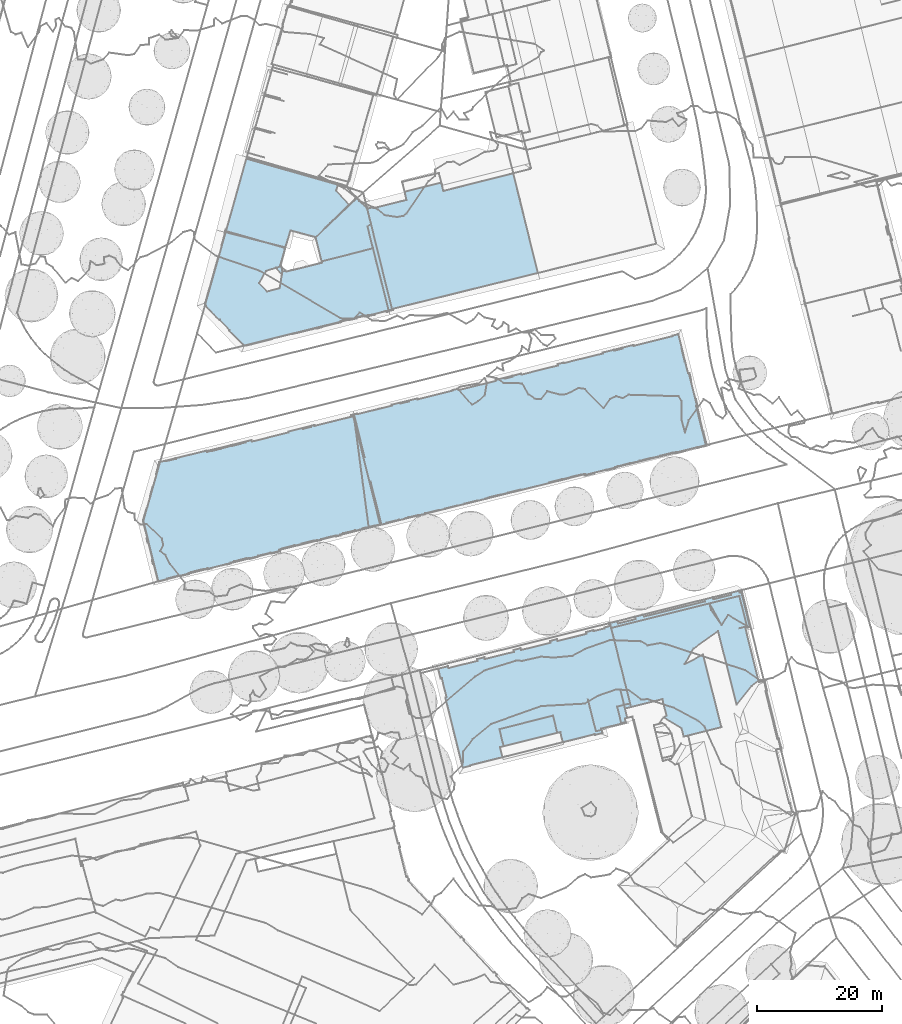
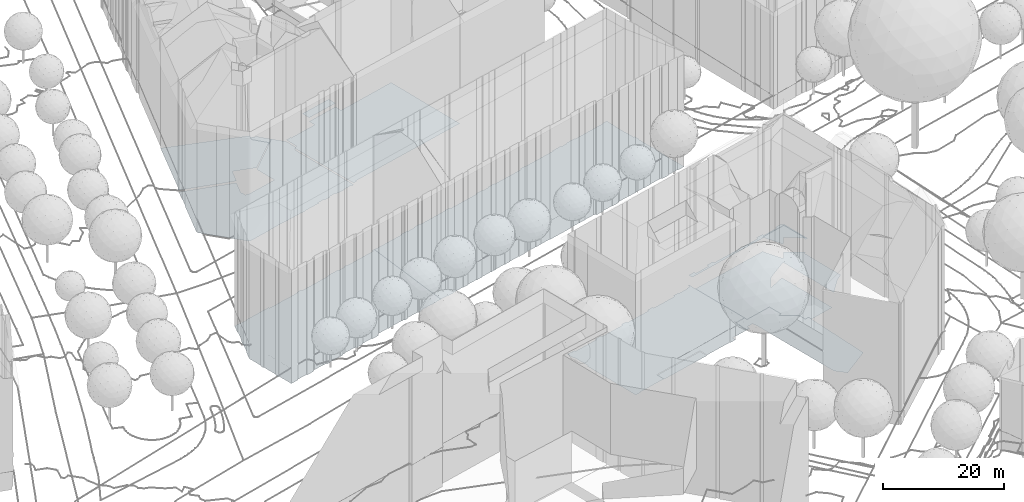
# Not in any storey, part 5 of 477: 6 footings.
"""IFC4 building model written with IfcOpenShell, lengths in metres."""

from ifc_helpers import new_model, si_unit, frame, origin_with_axes, place, context, subcontext, project, spatial, polygons, element, save


model = new_model("IFC4")

# Units and contexts
model_context = context("Model", 3, precision=1e-05, world=origin_with_axes())
body_context = subcontext(model_context, "Body", "Model", "MODEL_VIEW")
ifc_project = project(units=[si_unit("AREAUNIT", "SQUARE_METRE"), si_unit("LENGTHUNIT", "METRE")], contexts=[model_context])

# Sites, building
site_1_placement = place(None, origin_with_axes())
site_1 = spatial("IfcSite", under=ifc_project, at=site_1_placement, Name="Topoexport Site")
site_2_placement = place(site_1_placement, origin_with_axes())
site_2 = spatial("IfcSite", under=site_1, at=site_2_placement, Name="TPX_BUILDINGS")
building_1_placement = place(site_2_placement, frame((124.1537320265, 278.7713160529, 533.7988), z_axis=(0.0, 0.0, 1.0), x_axis=(1.0, 0.0, 0.0)))
building_1 = spatial("IfcBuilding", under=site_2, at=building_1_placement, Name="Building 151", CompositionType="ELEMENT")

# Footing
footing_1_placement = place(None, frame((124.1537320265, 278.7713160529, 533.7988), z_axis=(0.0, 0.0, 1.0), x_axis=(1.0, 0.0, 0.0)))
element("IfcFooting", 1, at=footing_1_placement, inside=building_1, Name="Floor 1", context=body_context, shape_type="Tessellation", body=[
    polygons([(1.9149999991, 28.5234000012, 0.6939), (0.9149999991, 26.6933000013, 0.6939), (1.7730000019, 29.0907999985, 0.6939), (2.381000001, 26.3975000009, 0.6939), (7.0700000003, 26.8691000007, 0.6939), (6.9270000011, 29.7802999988, 0.6939), (2.1279999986, 26.995099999, 0.6939), (-0.2919999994, 28.5762000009, 0.6939), (0.3469999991, 25.9521000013, 0.6939), (2.2820000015, 26.375, 0.6939), (1.0610000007, 26.1083999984, 0.6939), (13.8410000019, 10.6182000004, 0.6939), (8.6559999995, 6.8436999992, 0.6939), (10.324000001, 23.7841999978, 0.6939), (11.068, 23.9716999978, 0.6939), (9.9919999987, 25.1123000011, 0.6939), (6.9510000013, 8.4501999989, 0.6939), (7.5890000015, 27.1444999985, 0.6939), (-1.2520000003, 41.1444999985, 0.0), (11.8619999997, 37.8427999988, 0.0), (-0.1460000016, 36.7382999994, 0.0), (10.4750000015, 35.365199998, 0.0), (0.3049999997, 34.9404000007, 0.0), (0.7890000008, 33.0155999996, 0.0), (16.3480000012, 25.2978000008, 0.0), (13.4299999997, 36.9188999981, 0.0), (6.9270000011, 29.7802999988, 0.0), (14.4530000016, 45.0848999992, 0.0), (1.9149999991, 28.5234000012, 0.0), (7.5890000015, 27.1444999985, 0.0), (9.9919999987, 25.1123000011, 0.0), (10.324000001, 23.7841999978, 0.0), (7.0700000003, 26.8691000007, 0.0), (16.3949999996, 41.6054999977, 0.0), (15.8280000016, 40.6669999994, 0.0), (20.1909999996, 41.1473999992, 0.0), (20.4450000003, 41.4248000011, 0.0), (17.379999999, 43.2344000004, 0.0), (20.4959999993, 41.2225999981, 0.0), (22.2650000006, 32.7509999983, 0.0), (21.1400000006, 31.8506000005, 0.0), (18.7740000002, 28.9307000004, 0.0), (-8.9820000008, 22.9013999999, 0.617), (-19.0229999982, 22.1044999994, 0.617), (-9.3900000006, 24.5234000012, 0.617), (-18.6209999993, 20.5, 0.617), (1.0610000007, 26.1083999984, 0.7269), (1.0769999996, 26.0429999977, 0.7269), (0.3469999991, 25.9521000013, 0.7269), (-10.9860000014, 38.7802999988, 0.727), (-9.824000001, 39.0683000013, 0.727), (0.3049999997, 34.9404000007, 0.727), (0.7890000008, 33.0155999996, 0.7269), (-9.3900000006, 24.5234000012, 0.7269), (-0.1460000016, 36.7382999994, 0.727), (1.7730000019, 29.0907999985, 0.7269), (-0.2919999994, 28.5762000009, 0.7269), (-2.8480000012, 25.066399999, 0.7269), (-2.6730000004, 24.3612999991, 0.7269), (-2.9160000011, 24.3007999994, 0.7269), (-2.7980000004, 24.8671999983, 0.7269), (-3.8979999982, 24.1669999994, 0.7269), (-3.8720000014, 24.0625, 0.7269), (-4.0729999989, 24.123999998, 0.7269), (-1.5139999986, 41.4393999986, 0.727), (-1.4560000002, 41.9580000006, 0.727), (-1.2520000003, 41.1444999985, 0.727), (-2.2930000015, 41.0927999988, 0.727), (-2.3289999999, 41.2373000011, 0.727), (-4.0610000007, 40.6523000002, 0.727), (-1.6319999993, 41.9140999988, 0.727), (-4.8819999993, 40.6035000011, 0.727), (-4.0969999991, 40.7987999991, 0.727), (-5.2210000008, 40.4257999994, 0.727), (-5.1710000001, 40.2225999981, 0.727), (-5.9979999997, 40.0175999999, 0.727), (-5.2430000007, 40.5137000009, 0.727), (-11.0590000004, 39.0742000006, 0.727), (-9.8969999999, 39.3612999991, 0.727), (-8.9820000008, 22.9013999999, 0.7269), (-7.6090000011, 23.2432000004, 0.7269), (-27.5639999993, 30.0927999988, 0.727), (-16.8049999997, 37.3359000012, 0.727), (-26.1889999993, 23.7313999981, 0.727), (-19.0229999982, 22.1044999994, 0.727), (-23.8280000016, 19.2030999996, 0.727), (-18.6209999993, 20.5, 0.727), (-28.324000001, 33.1493999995, 0.727), (-22.6259999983, 35.8925999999, 0.727), (-23.8049999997, 19.1112999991, 0.727), (-24.9690000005, 18.8213, 0.727), (-27.7569999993, 30.0438999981, 0.727), (-28.5179999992, 33.1015999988, 0.727), (-28.9010000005, 34.6444999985, 0.727), (-16.8770000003, 37.6268999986, 0.727), (-15.6409999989, 37.625, 0.727), (-15.7129999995, 37.9169999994, 0.727), (-22.6979999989, 36.1816000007, 0.727), (-21.5329999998, 36.4686999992, 0.727), (-21.4620000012, 36.1816000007, 0.727), (-27.3579999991, 35.0273000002, 0.727), (-27.2859999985, 34.7362999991, 0.727), (19.5450000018, 46.8827999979, 2.6808), (20.9189999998, 41.3271000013, 2.6808), (19.2250000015, 46.2841999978, 2.6808), (20.4959999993, 41.2225999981, 2.6808), (20.4459999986, 41.4248000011, 2.6808), (19.251000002, 46.7763999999, 2.6808), (17.9189999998, 46.4452999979, 2.6808), (14.4530000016, 45.0850000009, 2.6808), (15.6339999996, 45.8759999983, 2.6808), (17.8390000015, 46.7655999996, 2.6808), (19.1710000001, 47.0966999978, 2.6808), (14.9770000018, 46.052699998, 2.6808), (15.057, 45.7324000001, 2.6808), (13.7170000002, 45.3984000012, 2.6808), (8.0800000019, 43.9941000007, 2.6808), (-1.2520000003, 41.1444999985, 2.6808), (-0.175999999, 41.8641999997, 2.6808), (2.6660000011, 42.5731999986, 2.6808), (3.9910000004, 42.9756000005, 2.6808), (2.569000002, 42.9609000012, 2.6808), (-1.4560000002, 41.9580000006, 2.6808), (3.7679999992, 43.2606999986, 2.6808), (3.9149999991, 43.2969000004, 2.6808), (-0.2729999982, 42.2518999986, 2.6808), (13.6380000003, 45.7177999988, 2.6808), (19.2250000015, 46.2841999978, 2.8947), (17.379999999, 43.2344000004, 2.8947), (14.4530000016, 45.0850000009, 2.8947), (20.4450000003, 41.4248000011, 2.8947), (16.3949999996, 41.6054999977, 2.8947)], [[[1, 2, 3]], [[4, 1, 5]], [[6, 5, 1]], [[1, 4, 7]], [[2, 8, 3]], [[1, 7, 2]], [[2, 9, 8]], [[4, 10, 7]], [[2, 11, 9]], [[12, 13, 14]], [[14, 15, 12]], [[5, 16, 14]], [[17, 4, 5]], [[6, 18, 5]], [[17, 5, 14]], [[17, 14, 13]], [[19, 20, 21]], [[21, 22, 23]], [[22, 24, 23]], [[21, 20, 22]], [[25, 22, 26]], [[22, 27, 24]], [[28, 20, 19]], [[29, 24, 27]], [[30, 27, 31]], [[32, 31, 25]], [[33, 30, 31]], [[31, 27, 22]], [[34, 35, 28]], [[34, 36, 35]], [[37, 36, 38]], [[37, 39, 36]], [[36, 34, 38]], [[36, 40, 35]], [[22, 25, 31]], [[35, 41, 42]], [[35, 40, 41]], [[20, 28, 35]], [[43, 44, 45]], [[44, 43, 46]], [[47, 48, 49]], [[50, 51, 52]], [[52, 53, 54]], [[52, 51, 55]], [[56, 57, 53]], [[58, 57, 49]], [[59, 60, 61]], [[62, 60, 63]], [[60, 62, 61]], [[49, 48, 58]], [[62, 58, 61]], [[64, 58, 62]], [[58, 54, 57]], [[54, 53, 57]], [[65, 66, 67]], [[67, 68, 65]], [[68, 69, 65]], [[67, 55, 68]], [[68, 55, 70]], [[65, 71, 66]], [[72, 73, 70]], [[74, 72, 75]], [[55, 75, 70]], [[75, 55, 76]], [[72, 74, 77]], [[78, 79, 50]], [[79, 51, 50]], [[72, 70, 75]], [[51, 76, 55]], [[58, 64, 54]], [[80, 54, 81]], [[82, 83, 84]], [[85, 84, 54]], [[84, 85, 86]], [[86, 85, 87]], [[82, 88, 89]], [[90, 91, 86]], [[52, 54, 50]], [[92, 82, 84]], [[54, 84, 83]], [[86, 91, 84]], [[93, 94, 88]], [[83, 95, 96]], [[50, 54, 96]], [[96, 54, 83]], [[96, 95, 97]], [[89, 98, 99]], [[83, 82, 100]], [[100, 82, 89]], [[94, 101, 102]], [[88, 94, 102]], [[99, 100, 89]], [[102, 89, 88]], [[64, 81, 54]], [[103, 104, 105]], [[104, 106, 107]], [[105, 108, 103]], [[105, 109, 108]], [[105, 104, 107]], [[105, 110, 111]], [[109, 112, 113]], [[105, 111, 109]], [[114, 115, 116]], [[115, 111, 110]], [[109, 113, 108]], [[110, 116, 115]], [[110, 117, 116]], [[118, 119, 120]], [[121, 117, 118]], [[122, 121, 120]], [[123, 119, 118]], [[117, 110, 118]], [[118, 120, 121]], [[121, 124, 125]], [[124, 121, 122]], [[123, 126, 119]], [[127, 114, 116]], [[128, 129, 130]], [[129, 128, 131]], [[132, 130, 129]]]),
])

# Building
building_2_placement = place(site_2_placement, frame((81.7547320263, 354.0350160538, 535.8227), z_axis=(0.0, 0.0, 1.0), x_axis=(1.0, 0.0, 0.0)))
building_2 = spatial("IfcBuilding", under=site_2, at=building_2_placement, Name="Building 164", CompositionType="ELEMENT")

# Footing
footing_2_placement = place(None, frame((81.7547320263, 354.0350160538, 535.8227), z_axis=(0.0, 0.0, 1.0), x_axis=(1.0, 0.0, 0.0)))
element("IfcFooting", 2, at=footing_2_placement, inside=building_2, Name="Floor 0", context=body_context, shape_type="Tessellation", body=[
    polygons([(4.2390000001, -17.6513999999, 0.0), (3.9180000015, -17.7314999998, 0.0), (3.8969999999, -17.6446000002, 0.0), (4.4299999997, -17.6045000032, 0.0), (3.4160000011, -17.7237000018, 0.0), (5.2609999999, -17.3057000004, 0.0), (5.2769999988, -17.3946000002, 0.0), (1.4919999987, -11.2305000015, 0.0), (7.2520000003, -16.8125, 0.0), (3.4310000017, -17.7675999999, 0.0), (7.2829999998, -16.8965000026, 0.0), (8.2120000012, -16.6661000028, 0.0), (8.3420000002, -16.5411000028, 0.0), (8.3630000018, -16.6289000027, 0.0), (8.7919999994, -16.4307000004, 0.0), (10.3099999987, -16.0567000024, 0.0), (11.4090000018, -15.7901000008, 0.0), (11.4270000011, -15.8692000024, 0.0), (16.5639999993, -14.5245000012, 0.0), (14.5729999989, -15.0157000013, 0.0), (10.3359999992, -16.1407000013, 0.0), (14.5879999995, -15.0860000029, 0.0), (13.561999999, -15.2696000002, 0.0), (17.6959999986, -14.3155000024, 0.0), (16.5800000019, -14.5918000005, 0.0), (17.6810000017, -14.2383000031, 0.0), (13.5789999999, -15.3360000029, 0.0), (19.6710000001, -13.7471000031, 0.0), (21.0590000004, -13.4825000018, 0.0), (19.6909999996, -13.8213, 0.0), (21.5130000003, -13.2530000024, 0.0), (21.0470000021, -13.4239000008, 0.0), (21.5269999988, -13.3057000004, 0.0), (23.5159999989, -12.7637000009, 0.0), (24.6559999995, -12.4785000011, 0.0), (24.6680000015, -12.5263999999, 0.0), (23.5280000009, -12.8057000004, 0.0), (31.2730000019, -10.9502000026, 0.0), (26.694000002, -12.0840000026, 0.0), (26.6669999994, -11.9932000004, 0.0), (31.2470000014, -10.8467000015, 0.0), (1.4459999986, -10.8868000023, 0.0), (33.2459999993, -10.3409000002, 0.0), (34.4510000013, -10.0811000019, 0.0), (33.2580000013, -10.3731000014, 0.0), (34.4450000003, -10.0459000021, 0.0), (36.3969999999, -9.567400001, 0.0), (36.8330000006, -9.5020000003, 0.0), (36.4070000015, -9.6084000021, 0.0), (38.3379999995, -9.327200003, 0.0), (38.3610000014, -9.4200000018, 0.0), (36.9050000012, -9.7803000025, 0.0), (40.3770000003, -8.8203999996, 0.0), (42.1449999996, -8.2802000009, 0.0), (41.8090000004, -8.563500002, 0.0), (40.4010000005, -8.9151000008, 0.0), (41.7730000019, -8.4131000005, 0.0), (42.1550000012, -8.3194000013, 0.0), (44.1610000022, -7.8145000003, 0.0), (44.1460000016, -7.7832000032, 0.0), (45.6469999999, -7.4502000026, 0.0), (55.3029999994, -0.6494000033, 0.0), (45.6330000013, -7.4034000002, 0.0), (47.5450000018, -6.9805000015, 0.0), (47.5320000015, -6.942400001, 0.0), (49.0370000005, -6.6152999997, 0.0), (49.0250000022, -6.5703000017, 0.0), (51.0709999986, -6.1055000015, 0.0), (51.0549999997, -6.0576000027, 0.0), (51.4629999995, -6.004900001, 0.0), (52.9180000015, -5.8379000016, 0.0), (51.5159999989, -6.1748000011, 0.0), (52.8949999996, -5.7276000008, 0.0), (55.8110000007, -2.7168000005, 0.0), (2.3880000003, -17.9776000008, 0.0), (0.9459999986, -7.1202000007, 0.0), (0.0, 0.0, 0.0), (0.5269999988, 0.047799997, 0.0), (4.1270000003, 0.9266999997, 0.0), (0.5080000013, 0.1268999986, 0.0), (0.0329999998, 0.0088, 0.0), (6.0910000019, 1.4051999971, 0.0), (7.512000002, 1.7469999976, 0.0), (6.0549999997, 1.5516999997, 0.0), (7.4790000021, 1.9012999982, 0.0), (8.8509999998, 2.0829999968, 0.0), (10.2300000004, 2.422799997, 0.0), (10.194000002, 2.5682999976, 0.0), (8.8249999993, 2.2313999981, 0.0), (16.7820000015, 3.8944999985, 0.0), (15.7829999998, 3.8173999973, 0.0), (54.5969999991, 2.4491999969, 0.0), (16.7259999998, 4.1278999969, 0.0), (15.7639999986, 3.8954999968, 0.0), (22.6209999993, 5.4979999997, 0.0), (24.0720000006, 5.7088999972, 0.0), (22.6570000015, 5.3514999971, 0.0), (24.0399999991, 5.8486000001, 0.0), (53.8220000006, 5.5625, 0.0), (26.7860000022, 6.3729999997, 0.0), (25.4079999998, 6.0341999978, 0.0), (25.379999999, 6.1805999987, 0.0), (26.75, 6.5185000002, 0.0), (53.4220000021, 6.5898000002, 0.0), (32.5980000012, 8.066399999, 0.0), (33.5780000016, 8.2137999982, 0.0), (32.6550000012, 7.8339999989, 0.0), (33.557, 8.3006999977, 0.0), (39.8090000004, 9.748999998, 0.0), (52.8770000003, 8.4842999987, 0.0), (56.2300000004, -4.2334000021, 0.0), (54.9420000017, -5.2276000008, 0.0), (54.9670000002, -5.327200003, 0.0), (56.4129999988, -4.9825000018, 0.0), (53.9100000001, 5.5887999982, 0.0), (54.8599999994, 1.369099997, 0.0), (53.6570000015, 6.6454999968, 0.0), (54.949000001, 1.3905999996, 0.0), (54.6849999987, 2.4755999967, 0.0), (55.8570000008, -2.7090000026, 0.0), (56.307, -4.5469000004, 0.0), (55.3489999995, -0.6338, 0.0), (39.7730000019, 9.8944999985, 0.0), (41.6110000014, 10.177699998, 0.0), (41.5729999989, 10.3398000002, 0.0), (52.3440000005, 10.6747999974, 0.0), (42.9160000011, 10.672799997, 0.0), (44.7300000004, 10.9667999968, 0.0), (42.9459999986, 10.5292999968, 0.0), (44.694000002, 11.1122999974, 0.0), (52.9479999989, 8.5067999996, 0.0), (50.9210000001, 12.5975999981, 0.0), (51.8770000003, 12.8299999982, 0.0), (50.9420000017, 12.5097000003, 0.0), (52.4050000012, 10.6991999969, 0.0)], [[[1, 2, 3]], [[4, 1, 3]], [[5, 6, 3]], [[6, 7, 4]], [[4, 3, 6]], [[8, 9, 6]], [[10, 5, 3]], [[8, 6, 5]], [[11, 9, 12]], [[13, 12, 9]], [[14, 12, 13]], [[13, 8, 15]], [[9, 8, 13]], [[8, 16, 15]], [[17, 18, 16]], [[8, 19, 20]], [[18, 21, 16]], [[20, 22, 23]], [[20, 23, 8]], [[19, 24, 25]], [[19, 8, 26]], [[22, 27, 23]], [[17, 8, 23]], [[24, 19, 26]], [[28, 29, 30]], [[8, 31, 28]], [[29, 28, 32]], [[33, 32, 31]], [[34, 8, 35]], [[28, 31, 32]], [[28, 26, 8]], [[17, 16, 8]], [[34, 31, 8]], [[36, 37, 34]], [[34, 35, 36]], [[38, 39, 40]], [[40, 41, 38]], [[41, 40, 8]], [[42, 43, 41]], [[8, 40, 35]], [[44, 45, 43]], [[43, 46, 44]], [[47, 48, 49]], [[48, 50, 51]], [[52, 48, 51]], [[48, 53, 50]], [[54, 48, 47]], [[42, 47, 46]], [[42, 46, 43]], [[53, 55, 56]], [[55, 53, 57]], [[54, 57, 53]], [[58, 57, 54]], [[59, 60, 61]], [[60, 54, 62]], [[62, 63, 60]], [[48, 54, 53]], [[61, 60, 63]], [[64, 65, 66]], [[67, 66, 65]], [[68, 69, 70]], [[70, 71, 72]], [[70, 73, 71]], [[65, 74, 67]], [[65, 63, 74]], [[62, 54, 47]], [[75, 8, 5]], [[47, 42, 76]], [[62, 47, 76]], [[76, 77, 78]], [[79, 76, 78]], [[80, 78, 81]], [[79, 82, 76]], [[77, 81, 78]], [[83, 82, 84]], [[84, 85, 83]], [[76, 86, 87]], [[76, 83, 86]], [[88, 87, 89]], [[90, 87, 91]], [[76, 87, 90]], [[87, 86, 89]], [[76, 82, 83]], [[90, 92, 76]], [[93, 90, 94]], [[91, 94, 90]], [[95, 96, 97]], [[96, 95, 98]], [[97, 96, 99]], [[99, 90, 97]], [[100, 101, 102]], [[102, 103, 100]], [[101, 100, 104]], [[101, 99, 96]], [[105, 106, 107]], [[106, 105, 108]], [[109, 107, 106]], [[104, 100, 107]], [[110, 107, 109]], [[73, 70, 69]], [[73, 111, 112]], [[113, 112, 114]], [[73, 69, 111]], [[104, 115, 99]], [[92, 90, 99]], [[76, 92, 116]], [[117, 115, 104]], [[101, 104, 99]], [[62, 76, 116]], [[118, 92, 119]], [[74, 120, 111]], [[121, 112, 111]], [[112, 121, 114]], [[74, 111, 69]], [[116, 92, 118]], [[62, 116, 122]], [[62, 74, 63]], [[67, 74, 69]], [[123, 124, 109]], [[124, 123, 125]], [[124, 126, 109]], [[127, 128, 129]], [[128, 127, 130]], [[129, 128, 126]], [[129, 126, 124]], [[109, 126, 110]], [[131, 104, 110]], [[132, 133, 134]], [[133, 135, 134]], [[126, 128, 135]], [[128, 134, 135]], [[107, 110, 104]], [[41, 8, 42]]]),
])

# Building
building_3_placement = place(site_2_placement, frame((48.0647320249, 337.0857160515, 535.8227), z_axis=(0.0, 0.0, 1.0), x_axis=(1.0, 0.0, 0.0)))
building_3 = spatial("IfcBuilding", under=site_2, at=building_3_placement, Name="Building 165", CompositionType="ELEMENT")

# Footing
footing_3_placement = place(None, frame((48.0647320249, 337.0857160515, 535.8227), z_axis=(0.0, 0.0, 1.0), x_axis=(1.0, 0.0, 0.0)))
element("IfcFooting", 3, at=footing_3_placement, inside=building_3, Name="Floor 0", context=body_context, shape_type="Tessellation", body=[
    polygons([(33.6900000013, 16.9493000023, 0.0), (33.3000000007, 16.5947999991, 0.0), (33.5500000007, 16.9141000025, 0.0), (33.2390000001, 16.8379000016, 0.0), (27.4270000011, 15.1280000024, 0.0), (30.2790000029, 15.8399000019, 0.0), (34.6359999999, 9.8291000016, 0.0), (26.8230000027, 15.1308999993, 0.0), (27.3900000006, 15.2734999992, 0.0), (26.8520000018, 14.9678000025, 0.0), (23.2900000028, 14.0888999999, 0.0), (23.2530000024, 14.2344000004, 0.0), (25.6000000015, 14.6534000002, 0.0), (25.5670000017, 14.8164000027, 0.0), (17.4160000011, 12.6220999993, 0.0), (35.1359999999, 6.0625, 0.0), (24.2039999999, -3.9422999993, 0.0), (35.2910000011, -1.2215999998, 0.0), (35.182, 5.7188000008, 0.0), (36.0780000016, -1.0282999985, 0.0), (25.3740000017, -3.6669999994, 0.0), (35.1000000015, -1.2685000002, 0.0), (14.1790000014, 11.9043000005, 0.0), (22.2210000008, -4.4442999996, 0.0), (12.4210000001, 11.4620000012, 0.0), (16.3880000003, 12.6182000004, 0.0), (17.3590000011, 12.8544999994, 0.0), (16.4060000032, 12.4776000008, 0.0), (15.6550000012, 12.2657000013, 0.0), (15.6510000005, 12.2969000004, 0.0), (33.9360000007, -1.5487999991, 0.0), (12.4170000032, 11.5, 0.0), (14.1730000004, 11.947300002, 0.0), (10.9700000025, 11.0918000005, 0.0), (10.2130000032, 10.9600000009, 0.0), (10.9600000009, 11.1495000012, 0.0), (10.1610000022, 11.1601999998, 0.0), (1.5920000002, 5.3194000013, 0.0), (5.2630000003, 9.8594000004, 0.0), (5.2420000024, 9.9629000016, 0.0), (2.1770000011, 7.3858000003, 0.0), (3.7320000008, 9.4922000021, 0.0), (2.6090000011, 9.3243000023, 0.0), (3.7140000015, 9.5909000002, 0.0), (2.4520000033, 8.7618000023, 0.0), (1.194000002, 3.9180000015, 0.0), (18.3900000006, -5.6268999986, 0.0), (2.0800000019, 7.4229000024, 0.0), (1.1180000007, 3.9453999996, 0.0), (16.5530000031, -6.0126999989, 0.0), (0.6160000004, 1.8780000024, 0.0), (1.5150000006, 5.3438000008, 0.0), (0.1660000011, 0.5733000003, 0.0), (0.5470000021, 1.8965000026, 0.0), (0.7039999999, -2.807599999, 0.0), (0.0, 0.0, 0.0), (0.8590000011, -3.4648000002, 0.0), (0.5670000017, -2.8436999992, 0.0), (14.5450000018, -6.5126999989, 0.0), (0.7400000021, -3.4881999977, 0.0), (35.1140000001, -1.3348999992, 0.0), (33.950000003, -1.6162, 0.0), (31.9580000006, -2.0321999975, 0.0), (30.8550000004, -2.3662, 0.0), (31.5450000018, -2.3691000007, 0.0), (30.8890000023, -2.5340999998, 0.0), (31.5140000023, -2.2284999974, 0.0), (31.9720000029, -2.1092999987, 0.0), (27.3430000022, -3.1717999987, 0.0), (28.4470000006, -2.9608999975, 0.0), (27.8330000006, -3.1180999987, 0.0), (27.8660000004, -3.2752999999, 0.0), (28.4820000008, -3.1209999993, 0.0), (27.3560000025, -3.2284999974, 0.0), (25.3859999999, -3.7362999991, 0.0), (24.2240000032, -4.0262999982, 0.0), (21.8280000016, -4.6004999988, 0.0), (22.2300000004, -4.4941000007, 0.0), (20.4300000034, -5.1259000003, 0.0), (21.9140000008, -4.9384000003, 0.0), (20.4680000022, -5.2899999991, 0.0), (18.4250000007, -5.7861000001, 0.0), (16.9790000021, -5.9715999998, 0.0), (17.018000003, -6.1464000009, 0.0), (16.5670000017, -6.0839000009, 0.0), (13.9790000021, -6.7333999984, 0.0), (14.0080000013, -6.8768999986, 0.0), (13.4180000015, -7.0262999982, 0.0), (13.4020000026, -6.9549999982, 0.0), (14.5620000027, -6.5918000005, 0.0), (10.3260000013, -7.6307999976, 0.0), (1.7150000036, -6.8983999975, 0.0), (1.4330000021, -6.2909999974, 0.0), (1.5610000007, -6.2547999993, 0.0), (7.6620000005, -8.2324000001, 0.0), (1.5920000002, -6.9247999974, 0.0), (10.9650000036, -7.566399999, 0.0), (9.7030000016, -7.7342999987, 0.0), (10.9740000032, -7.6483999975, 0.0), (9.7170000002, -7.7949000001, 0.0), (10.3650000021, -7.807599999, 0.0), (7.2960000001, -8.3856999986, 0.0), (7.6760000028, -8.2928999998, 0.0), (5.8650000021, -8.7577999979, 0.0), (3.8480000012, -9.2597000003, 0.0), (7.3340000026, -8.5506999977, 0.0), (2.4410000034, -9.753899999, 0.0), (3.876000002, -9.3964000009, 0.0), (5.8980000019, -8.9081999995, 0.0)], [[[1, 2, 3]], [[3, 2, 4]], [[5, 6, 7]], [[5, 8, 9]], [[7, 10, 5]], [[7, 2, 1]], [[8, 5, 10]], [[11, 12, 13]], [[13, 7, 11]], [[12, 14, 13]], [[7, 13, 10]], [[2, 7, 6]], [[15, 16, 17]], [[16, 15, 11]], [[18, 19, 20]], [[19, 21, 16]], [[22, 19, 18]], [[23, 24, 25]], [[15, 26, 27]], [[15, 28, 26]], [[28, 29, 30]], [[29, 15, 24]], [[15, 29, 28]], [[24, 23, 29]], [[31, 19, 22]], [[7, 16, 11]], [[32, 33, 23]], [[25, 32, 23]], [[34, 35, 36]], [[37, 35, 38]], [[34, 38, 35]], [[39, 40, 37]], [[37, 41, 39]], [[42, 43, 44]], [[43, 42, 45]], [[42, 41, 45]], [[39, 41, 42]], [[46, 34, 47]], [[48, 45, 41]], [[46, 49, 38]], [[46, 50, 51]], [[34, 46, 38]], [[49, 52, 38]], [[38, 41, 37]], [[51, 53, 54]], [[53, 55, 56]], [[57, 58, 55]], [[53, 59, 55]], [[58, 57, 60]], [[47, 34, 25]], [[59, 53, 51]], [[59, 57, 55]], [[22, 61, 31]], [[31, 61, 62]], [[63, 64, 19]], [[65, 66, 64]], [[64, 67, 65]], [[67, 63, 68]], [[67, 64, 63]], [[69, 19, 70]], [[70, 71, 69]], [[64, 70, 19]], [[72, 71, 73]], [[74, 69, 71]], [[71, 70, 73]], [[21, 19, 69]], [[75, 17, 21]], [[75, 76, 17]], [[16, 21, 17]], [[77, 24, 78]], [[77, 25, 24]], [[79, 77, 80]], [[80, 81, 79]], [[79, 47, 77]], [[82, 83, 47]], [[83, 82, 84]], [[46, 47, 50]], [[77, 47, 25]], [[47, 83, 50]], [[17, 24, 15]], [[50, 83, 85]], [[57, 59, 86]], [[87, 88, 89]], [[89, 86, 87]], [[86, 59, 90]], [[57, 86, 91]], [[92, 93, 94]], [[92, 94, 95]], [[92, 96, 93]], [[97, 91, 89]], [[94, 57, 98]], [[99, 91, 97]], [[98, 57, 91]], [[89, 91, 86]], [[50, 59, 51]], [[91, 100, 98]], [[91, 99, 101]], [[102, 95, 103]], [[95, 102, 92]], [[104, 105, 92]], [[106, 104, 102]], [[105, 107, 92]], [[102, 104, 92]], [[105, 108, 107]], [[109, 104, 106]], [[94, 98, 95]], [[19, 31, 63]]]),
])

# Building
building_4_placement = place(site_2_placement, frame((57.9967320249, 371.6443160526, 536.9447), z_axis=(0.0, 0.0, 1.0), x_axis=(1.0, 0.0, 0.0)))
building_4 = spatial("IfcBuilding", under=site_2, at=building_4_placement, Name="Building 212", CompositionType="ELEMENT")

# Footing
footing_4_placement = place(None, frame((57.9967320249, 371.6443160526, 536.9447), z_axis=(0.0, 0.0, 1.0), x_axis=(1.0, 0.0, 0.0)))
element("IfcFooting", 4, at=footing_4_placement, inside=building_4, Name="Floor 0", context=body_context, shape_type="Tessellation", body=[
    polygons([(10.3950000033, 9.6816999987, 0.0), (0.1380000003, -0.2675000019, 0.0), (0.0100000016, 0.1689999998, 0.0), (2.0930000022, 7.5390999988, 0.0), (2.2030000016, 7.6963, 0.0), (2.1290000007, 7.6152999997, 0.0), (12.007000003, 6.1856000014, -0.0001), (2.2930000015, -2.5439000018, -0.0001), (2.3590000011, -2.4803999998, -0.0001), (0.0, 0.0, 0.0), (0.0540000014, -0.1523000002, 0.0), (2.9260000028, 10.4776000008, 0.0), (2.6590000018, 9.3027999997, 0.0), (2.643000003, 9.4814999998, 0.0), (3.1610000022, 11.5390999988, 0.0), (3.1570000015, 11.2930000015, 0.0), (3.1020000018, 11.3095999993, 0.0), (12.2110000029, 5.9814999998, -0.0001), (12.3510000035, 5.2305000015, -0.0001), (12.9810000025, 5.2120000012, -0.0001), (12.8380000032, 5.3555000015, -0.0001), (3.9330000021, -4.1240000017, -0.0001), (2.637000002, 9.3847999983, 0.0), (3.8720000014, -4.191399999, -0.0001), (6.0970000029, -6.4541000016, -0.0001), (6.5460000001, -6.6103000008, -0.0001), (6.2920000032, -6.5879000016, -0.0001), (6.188000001, -6.5293000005, -0.0001), (6.4150000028, -6.6141999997, -0.0001), (6.449000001, -6.6229999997, -0.0001), (10.8060000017, -5.4765000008, -0.0001), (10.6600000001, -5.5742000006, -0.0001), (10.7360000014, -5.5419999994, -0.0001), (13.6530000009, -4.7685000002, -0.0001), (17.5560000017, 6.3526000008, -0.0001), (13.8270000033, -4.7928999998, -0.0001), (13.7200000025, -4.7928999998, -0.0001), (17.7670000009, -3.8291000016, -0.0001), (18.689000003, 6.6347999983, -0.0001), (13.8440000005, 5.4277999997, -0.0001), (17.7860000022, -3.9061999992, -0.0001), (18.700000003, -3.6004999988, -0.0001), (18.7190000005, -3.6787, -0.0001), (27.2670000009, 7.2217000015, -0.0001), (21.6490000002, -2.6766999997, -0.0001), (21.6910000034, -2.8680999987, -0.0001), (27.4590000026, 6.4677999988, -0.0001), (12.7980000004, 8.9912, 0.0), (12.819000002, 9.0615999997, 0.0), (16.1700000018, 6.0069000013, -0.0001), (18.6770000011, 6.6827000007, -0.0001), (25.9670000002, 12.4228999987, -0.0002), (19.9760000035, 12.9941999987, -0.0001), (17.6710000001, 10.6992999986, -0.0001), (17.6480000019, 10.7050999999, -0.0001), (17.9580000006, 9.5546999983, -0.0001), (24.1640000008, 17.1083999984, 0.0), (24.2860000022, 16.9844000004, 0.0), (23.007000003, 15.9726999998, 0.0), (24.9530000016, 16.2842000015, -0.0001), (26.1160000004, 14.4688000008, -0.0001), (26.5090000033, 12.8779999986, -0.0001), (25.9170000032, 15.2745000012, -0.0001), (25.6150000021, 15.5909000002, -0.0001), (26.8340000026, 8.9472999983, -0.0001), (22.9730000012, -2.5555999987, -0.0001), (24.1520000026, -2.0791000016, -0.0001), (24.1920000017, -2.2578000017, -0.0001), (22.9230000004, -2.371100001, -0.0001), (25.4200000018, -1.7694999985, -0.0001), (26.0200000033, -1.8095000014, -0.0001), (25.4640000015, -1.9453000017, -0.0001), (26.0430000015, -1.9013000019, -0.0001), (26.876000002, -1.6953000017, -0.0001), (27.1510000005, -1.5243999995, -0.0001), (27.1150000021, -1.6435000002, -0.0001), (27.068, -1.6904000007, -0.0001), (26.8880000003, -1.7430999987, -0.0001), (28.006000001, -1.3134000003, -0.0001), (28.8460000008, -1.1064000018, -0.0001), (29.193, -1.1240000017, -0.0001), (29.0520000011, -1.2138000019, -0.0001), (28.9420000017, -1.2010999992, -0.0001), (29.2050000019, -1.1737999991, -0.0001), (29.3720000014, -1.0800000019, -0.0001)], [[[1, 2, 3]], [[4, 1, 3]], [[5, 4, 6]], [[7, 2, 1]], [[8, 2, 9]], [[10, 3, 11]], [[2, 11, 3]], [[2, 7, 9]], [[4, 5, 1]], [[12, 13, 14]], [[5, 13, 1]], [[15, 16, 17]], [[12, 16, 1]], [[1, 13, 12]], [[7, 18, 19]], [[9, 7, 19]], [[20, 19, 21]], [[19, 22, 9]], [[15, 1, 16]], [[14, 13, 23]], [[22, 19, 20]], [[24, 22, 25]], [[26, 27, 28]], [[26, 28, 25]], [[26, 25, 20]], [[29, 26, 30]], [[27, 26, 29]], [[31, 32, 26]], [[22, 20, 25]], [[32, 31, 33]], [[34, 31, 35]], [[36, 37, 34]], [[38, 36, 39]], [[39, 36, 34]], [[26, 40, 31]], [[41, 42, 43]], [[41, 38, 42]], [[42, 38, 44]], [[42, 45, 46]], [[47, 45, 42]], [[26, 20, 40]], [[48, 7, 1]], [[48, 1, 49]], [[39, 34, 35]], [[31, 50, 35]], [[39, 51, 52]], [[44, 38, 39]], [[53, 54, 55]], [[54, 53, 56]], [[57, 58, 59]], [[59, 60, 53]], [[60, 59, 58]], [[61, 52, 56]], [[53, 61, 56]], [[61, 62, 52]], [[52, 51, 56]], [[63, 61, 64]], [[53, 64, 61]], [[60, 64, 53]], [[52, 65, 39]], [[66, 67, 68]], [[66, 69, 67]], [[70, 67, 47]], [[70, 71, 72]], [[69, 47, 67]], [[73, 71, 74]], [[75, 76, 77]], [[74, 71, 75]], [[75, 77, 78]], [[78, 74, 75]], [[71, 70, 75]], [[47, 79, 75]], [[70, 47, 75]], [[47, 80, 79]], [[45, 47, 69]], [[47, 42, 44]], [[44, 39, 65]], [[81, 82, 83]], [[83, 80, 81]], [[84, 82, 81]], [[81, 80, 85]], [[47, 85, 80]], [[40, 50, 31]]]),
])

# Building
building_5_placement = place(site_2_placement, frame((83.9137320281, 386.9188160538, 537.2696), z_axis=(0.0, 0.0, 1.0), x_axis=(1.0, 0.0, 0.0)))
building_5 = spatial("IfcBuilding", under=site_2, at=building_5_placement, Name="Building 214", CompositionType="ELEMENT")

# Footing
footing_5_placement = place(None, frame((83.9137320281, 386.9188160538, 537.2696), z_axis=(0.0, 0.0, 1.0), x_axis=(1.0, 0.0, 0.0)))
element("IfcFooting", 5, at=footing_5_placement, inside=building_5, Name="Floor 0", context=body_context, shape_type="Tessellation", body=[
    polygons([(11.8299999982, 4.1747999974, 0.7441), (5.9689999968, 2.7069999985, 0.7439), (11.4419999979, 5.7196999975, 0.7441), (5.5869999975, 4.2850999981, 0.7441), (24.5249999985, 0.8495999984, 0.0), (19.754999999, 4.7635999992, 0.0001), (24.3809999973, 1.431599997, 0.0), (25.106999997, -1.5069000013, 0.0), (25.2449999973, -2.0665000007, 0.0), (25.930999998, -4.8438000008, 0.0), (27.2709999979, -10.2675999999, 0.0), (23.3349999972, 5.6668999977, 0.0001), (5.9689999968, 2.7069999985, 0.0), (11.8289999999, 4.1747999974, 0.0001), (12.1619999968, 2.8486000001, 0.0), (6.2839999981, 1.4051999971, 0.0), (6.4389999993, -15.4170000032, 0.0), (3.4549999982, -16.3545000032, 0.0), (4.0590000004, -16.004900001, 0.0), (4.1049999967, -16.193400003, 0.0), (1.5409999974, -8.8067000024, 0.0), (1.3499999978, -8.0527999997, 0.0), (5.4589999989, 1.2000999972, 0.0), (0.9169999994, -6.327200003, 0.0), (0.049999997, -2.8516000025, 0.0), (0.5920000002, -2.3965000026, 0.0), (1.0169999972, 0.0975999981, 0.0), (0.0, 0.0, 0.0), (0.9709999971, 0.2274999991, 0.0), (0.2199999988, -0.8887000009, 0.0)], [[[1, 2, 3]], [[4, 3, 2]], [[5, 6, 7]], [[6, 5, 8]], [[9, 10, 6]], [[8, 9, 6]], [[11, 6, 10]], [[12, 7, 6]], [[13, 14, 15]], [[13, 15, 16]], [[11, 15, 6]], [[11, 17, 15]], [[18, 19, 20]], [[19, 21, 17]], [[21, 19, 18]], [[21, 22, 23]], [[24, 23, 22]], [[17, 21, 23]], [[24, 25, 26]], [[23, 26, 27]], [[28, 29, 27]], [[17, 23, 16]], [[28, 27, 30]], [[27, 26, 30]], [[26, 23, 24]], [[16, 15, 17]]]),
])

# Building
building_6_placement = place(site_2_placement, frame((61.1577320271, 383.1834160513, 537.3186), z_axis=(0.0, 0.0, 1.0), x_axis=(1.0, 0.0, 0.0)))
building_6 = spatial("IfcBuilding", under=site_2, at=building_6_placement, Name="Building 217", CompositionType="ELEMENT")

# Footing
footing_6_placement = place(None, frame((61.1577320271, 383.1834160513, 537.3186), z_axis=(0.0, 0.0, 1.0), x_axis=(1.0, 0.0, 0.0)))
element("IfcFooting", 6, at=footing_6_placement, inside=building_6, Name="Floor 0", context=body_context, shape_type="Tessellation", body=[
    polygons([(0.0439999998, 0.1738000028, 0.0), (0.1710000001, 0.3594000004, 0.0), (0.0, 0.0, 0.0), (0.2359999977, 0.5898000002, 0.0), (0.3020000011, 0.5713, 0.0), (0.1050000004, 0.375, 0.0), (7.1339999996, -1.8319999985, 0.0), (10.4719999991, 0.2432000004, 0.0), (8.0009999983, -2.0537, 0.0), (9.6579999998, -2.4784999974, 0.0), (3.4290000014, 11.7188000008, 0.0002), (13.4659999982, -0.5595999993, 0.0), (16.0659999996, 0.7206999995, 0.0), (11.0500000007, 9.8115000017, 0.0001), (13.2190000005, 9.1807000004, 0.0001), (16.8150000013, 1.4550999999, 0.0), (3.5099999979, 12.001000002, 0.0002), (14.4859999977, -0.8339999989, 0.0), (19.8460000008, 4.433600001, 0.0), (17.8000000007, 6.6201000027, 0.0), (18.0940000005, 7.7627000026, 0.0001), (19.4470000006, 7.1523000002, -0.3739), (21.0029999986, 5.5692999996, -0.3739), (19.8460000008, 4.433600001, -0.3739), (17.8000000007, 6.6201000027, -0.3739), (18.0940000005, 7.7627000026, -0.3738), (19.504999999, 7.3525000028, -0.3739)], [[[1, 2, 3]], [[4, 5, 2]], [[2, 1, 6]], [[2, 7, 3]], [[7, 8, 9]], [[9, 8, 10]], [[8, 7, 5]], [[5, 11, 8]], [[2, 5, 7]], [[12, 8, 13]], [[8, 11, 14]], [[14, 15, 8]], [[16, 8, 15]], [[11, 17, 14]], [[12, 13, 18]], [[8, 16, 13]], [[19, 16, 20]], [[20, 16, 15]], [[21, 20, 15]], [[22, 23, 24]], [[24, 25, 22]], [[26, 27, 22]], [[22, 25, 26]]]),
])

save(model, "model.ifc")
